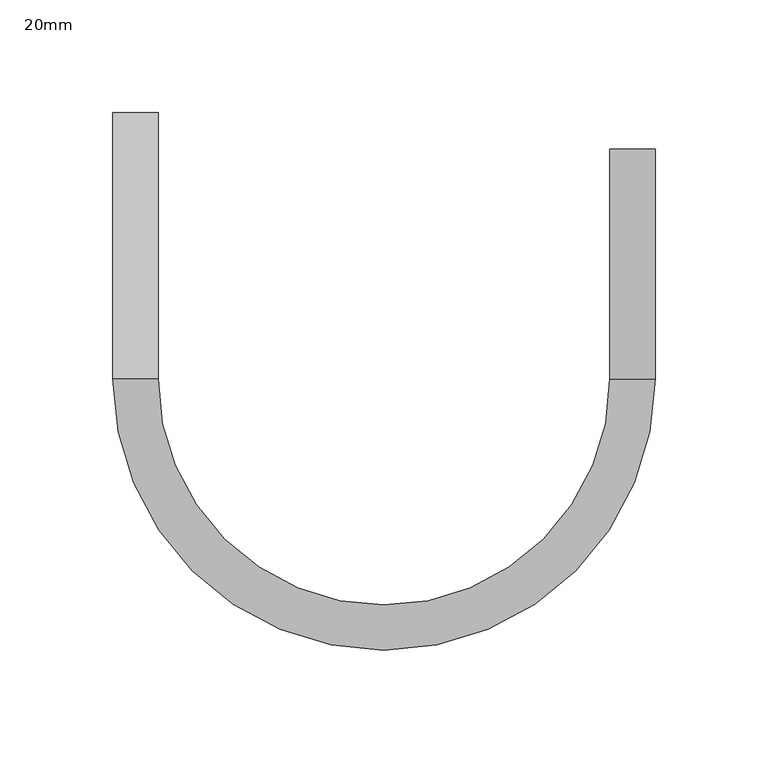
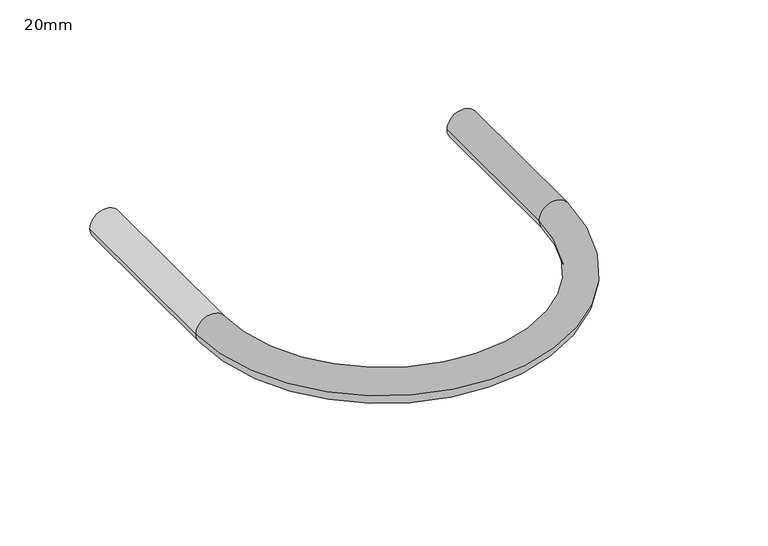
"""IFC4 building model written with IfcOpenShell, lengths in millimetres: pipe fitting geometry, PipeAccessory_HTA_CPVC_ExpansionJoints : 20mm."""

from ifc_helpers import new_model, si_unit, point, frame, origin, origin_with_axes, place, context, project, spatial, circle_curve, ellipse_curve, trimmed, source, transform, mapped, element, save
from ifc_brep_helpers import plane_surface, cylinder_surface, revolved_surface, advanced_brep


def pipe_fitting_20mm_36528bfd(model_context):
    return source(origin(), model_context, "Body", "AdvancedBrep", [
        advanced_brep(
        [(100.0, 102.0, 0.0), (120.0, 102.0, 0.0), (100.0, 0.0, 0.0), (120.0, 0.0, 0.0), (-120.0, 0.0, 0.0), (-100.0, 0.0, 0.0), (-100.0, 118.0, 0.0), (-120.0, 118.0, 0.0)],
        [
            (0, 1, circle_curve(frame((110.0, 102.0, 0.0), z_axis=(0.0, 1.0, 0.0), x_axis=(1.0, 0.0, 0.0)), 10.0)),
            (1, 0, circle_curve(frame((110.0, 102.0, 0.0), z_axis=(0.0, 1.0, 0.0), x_axis=(1.0, 0.0, 0.0)), 10.0)),
            (0, 2),
            (2, 3, circle_curve(frame((110.0, 0.0, 0.0), z_axis=(0.0, 1.0, 0.0), x_axis=(1.0, 0.0, 0.0)), 10.0)),
            (3, 1),
            (3, 2, circle_curve(frame((110.0, 0.0, 0.0), z_axis=(0.0, 1.0, 0.0), x_axis=(1.0, 0.0, 0.0)), 10.0)),
            (4, 3, circle_curve(origin_with_axes(), 120.0)),
            (2, 5, circle_curve(frame((0.0, 0.0, 0.0), z_axis=(0.0, 0.0, -1.0), x_axis=(1.0, 0.0, 0.0)), 100.0)),
            (5, 4, circle_curve(frame((-110.0, 0.0, 0.0), z_axis=(0.0, -1.0, 0.0), x_axis=(-1.0, 0.0, 0.0)), 10.0)),
            (4, 5, circle_curve(frame((-110.0, 0.0, 0.0), z_axis=(0.0, -1.0, 0.0), x_axis=(-1.0, 0.0, 0.0)), 10.0)),
            (6, 7, circle_curve(frame((-110.0, 118.0, 0.0), z_axis=(0.0, 1.0, 0.0), x_axis=(-1.0, 0.0, 0.0)), 10.0)),
            (7, 6, circle_curve(frame((-110.0, 118.0, 0.0), z_axis=(0.0, 1.0, 0.0), x_axis=(-1.0, 0.0, 0.0)), 10.0)),
            (5, 6),
            (7, 4),
        ],
        [
            plane_surface(frame((110.0, 102.0, 0.0), z_axis=(0.0, 1.0, 0.0), x_axis=(0.0, 0.0, 1.0))),
            cylinder_surface(frame((110.0, 102.0, 0.0), z_axis=(0.0, 1.0, 0.0), x_axis=(1.0, 0.0, 0.0)), 10.0),
            revolved_surface(trimmed(ellipse_curve(frame((110.0, 0.0, 0.0), z_axis=(0.0, 1.0, 0.0), x_axis=(1.0, 0.0, 0.0)), 10.0, 10.0), [point((100.0, 0.0, 0.0))], [point((120.0, 0.0, 0.0))], True, "CARTESIAN"), (0.0, 0.0, 0.0), (0.0, 0.0, -1.0)),
            revolved_surface(trimmed(ellipse_curve(frame((110.0, 0.0, 0.0), z_axis=(0.0, 1.0, 0.0), x_axis=(1.0, 0.0, 0.0)), 10.0, 10.0), [point((120.0, 0.0, 0.0))], [point((100.0, 0.0, 0.0))], True, "CARTESIAN"), (0.0, 0.0, 0.0), (0.0, 0.0, -1.0)),
            plane_surface(frame((-110.0, 118.0, 0.0), z_axis=(0.0, 1.0, 0.0), x_axis=(0.0, 0.0, 1.0))),
            cylinder_surface(frame((-110.0, 0.0, 0.0), z_axis=(0.0, -1.0, 0.0), x_axis=(-1.0, 0.0, 0.0)), 10.0),
        ],
        [
            (0, [[1, 2]]),
            (1, [[-1, 3, 4, 5]]),
            (1, [[-2, -5, 6, -3]]),
            (2, [[7, -4, 8, 9]]),
            (3, [[-8, -6, -7, 10]]),
            (4, [[11, 12]]),
            (5, [[-9, 13, -12, 14]]),
            (5, [[-10, -14, -11, -13]]),
        ],
    ),
    ])


if __name__ == "__main__":
    model = new_model("IFC4")
    model_context = context("Model", 3, world=origin())
    ifc_project = project(units=[si_unit("LENGTHUNIT", "METRE", prefix="MILLI")], contexts=[model_context])
    site = spatial("IfcSite", under=ifc_project)
    building = spatial("IfcBuilding", under=site)
    placement = place(None, origin())
    pipe_fitting_20mm_shape = pipe_fitting_20mm_36528bfd(model_context)
    element("IfcPipeFitting", 1, ObjectType="PipeAccessory_HTA_CPVC_ExpansionJoints : 20mm", at=placement, inside=building, context=model_context, shape_type="MappedRepresentation", body=[
        mapped(pipe_fitting_20mm_shape, transform((0.0, 0.0, 0.0), x_axis=(1.0, 0.0, 0.0), y_axis=(0.0, 1.0, 0.0), z_axis=(0.0, 0.0, 1.0))),
    ])
    save(model, "model.ifc")
